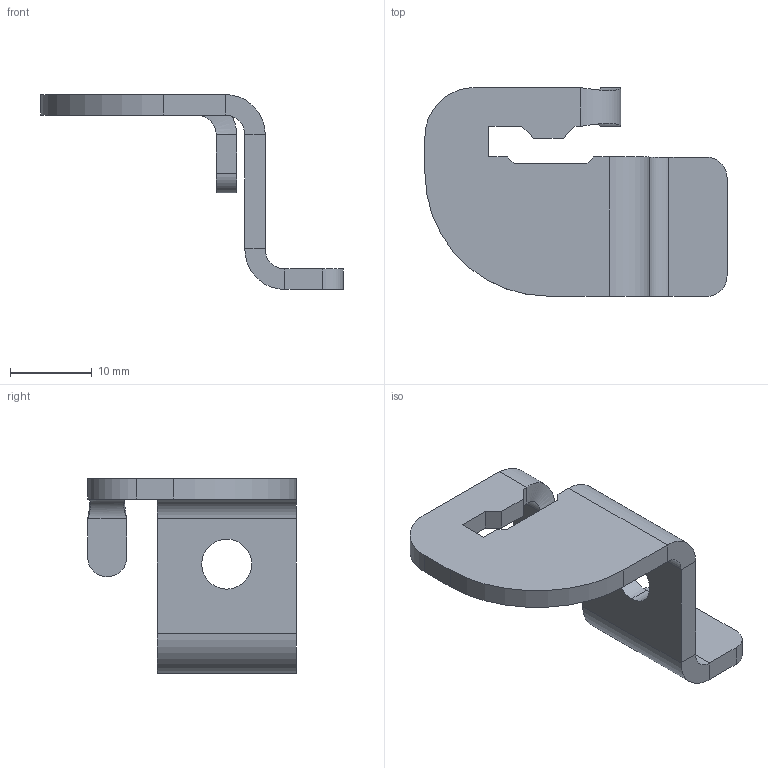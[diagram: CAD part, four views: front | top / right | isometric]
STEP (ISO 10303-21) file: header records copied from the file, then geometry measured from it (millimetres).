
FILE_DESCRIPTION (( 'STEP AP214' ), '1' );
FILE_NAME ('IK 01 00.001 Ñòÿæêà.STEP', '2016-08-01T12:15:05', ( '' ), ( '' ), 'SwSTEP 2.0', 'SolidWorks 2012', '' );
FILE_SCHEMA (( 'AUTOMOTIVE_DESIGN' ));
Length unit declared in the file: millimetre
Products named in the file (1): IK 01 00.001 Ñòÿæêà
Bounding box: 36.9 x 25.48 x 23.8 mm (x, y, z)
Volume: 2555.7 mm3; surface area: 2587.4 mm2
Topology: 1 solids, 1 shells, 48 faces, 118 edges, 72 vertices
Faces by surface type: plane 33, cylinder 13, bspline 2
Entity records: 1544 total; most frequent: CARTESIAN_POINT 383, ORIENTED_EDGE 236, DIRECTION 226, EDGE_CURVE 118, VECTOR 88, LINE 88, VERTEX_POINT 72, AXIS2_PLACEMENT_3D 69
